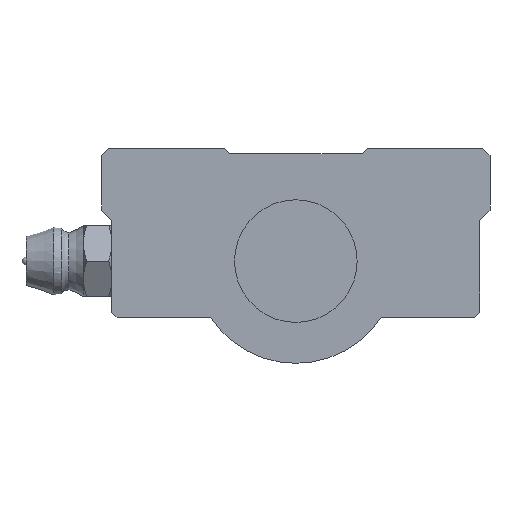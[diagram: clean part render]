
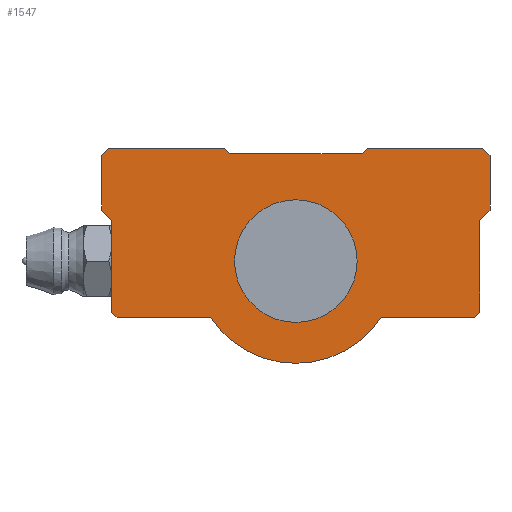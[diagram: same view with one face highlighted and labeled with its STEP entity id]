
A CAD part, left-side view. The second image highlights one B-rep face of the part: STEP entity #1547.
In plain terms, the highlighted planar face has unit normal (-1, 0, 0).
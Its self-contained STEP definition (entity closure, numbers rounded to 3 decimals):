
#780=CARTESIAN_POINT('',(135.0,18.,-5.));
#781=VERTEX_POINT('',#780);
#788=CARTESIAN_POINT('',(135.0,18.0,4.));
#789=VERTEX_POINT('',#788);
#790=CARTESIAN_POINT('',(135.0,18.,-5.));
#791=DIRECTION('',(0.0,0.0,1.0));
#792=VECTOR('',#791,9.);
#793=LINE('',#790,#792);
#794=EDGE_CURVE('',#781,#789,#793,.T.);
#1173=CARTESIAN_POINT('',(135.0,17.5,-5.5));
#1174=VERTEX_POINT('',#1173);
#1181=CARTESIAN_POINT('',(135.0,17.5,-5.5));
#1182=DIRECTION('',(0.0,0.707,0.707));
#1183=VECTOR('',#1182,0.707);
#1184=LINE('',#1181,#1183);
#1185=EDGE_CURVE('',#1174,#781,#1184,.T.);
#1205=CARTESIAN_POINT('',(135.0,8.352,-5.5));
#1206=VERTEX_POINT('',#1205);
#1213=CARTESIAN_POINT('',(135.0,8.352,-5.5));
#1214=DIRECTION('',(0.0,1.0,0.0));
#1215=VECTOR('',#1214,9.148);
#1216=LINE('',#1213,#1215);
#1217=EDGE_CURVE('',#1206,#1174,#1216,.T.);
#1391=CARTESIAN_POINT('',(135.0,-18.,-5.));
#1392=VERTEX_POINT('',#1391);
#1399=CARTESIAN_POINT('',(135.0,-17.5,-5.5));
#1400=VERTEX_POINT('',#1399);
#1401=CARTESIAN_POINT('',(135.0,-18.,-5.));
#1402=DIRECTION('',(0.0,0.707,-0.707));
#1403=VECTOR('',#1402,0.707);
#1404=LINE('',#1401,#1403);
#1405=EDGE_CURVE('',#1392,#1400,#1404,.T.);
#1416=CARTESIAN_POINT('',(135.0,-13.,10.75));
#1417=DIRECTION('',(1.0,0.0,0.0));
#1418=DIRECTION('',(0.0,0.0,-1.0));
#1419=AXIS2_PLACEMENT_3D('',#1416,#1417,#1418);
#1420=PLANE('',#1419);
#1421=ORIENTED_EDGE('',*,*,#1185,.F.);
#1422=ORIENTED_EDGE('',*,*,#1217,.F.);
#1423=CARTESIAN_POINT('',(135.0,-8.352,-5.5));
#1424=VERTEX_POINT('',#1423);
#1425=CARTESIAN_POINT('',(135.0,0.0,0.0));
#1426=DIRECTION('',(1.,0.0,0.0));
#1427=DIRECTION('',(0.0,-0.835,-0.55));
#1428=AXIS2_PLACEMENT_3D('',#1425,#1426,#1427);
#1429=CIRCLE('',#1428,10.0);
#1430=EDGE_CURVE('',#1424,#1206,#1429,.T.);
#1431=ORIENTED_EDGE('',*,*,#1430,.F.);
#1432=CARTESIAN_POINT('',(135.0,-17.5,-5.5));
#1433=DIRECTION('',(0.0,1.0,0.0));
#1434=VECTOR('',#1433,9.148);
#1435=LINE('',#1432,#1434);
#1436=EDGE_CURVE('',#1400,#1424,#1435,.T.);
#1437=ORIENTED_EDGE('',*,*,#1436,.F.);
#1438=ORIENTED_EDGE('',*,*,#1405,.F.);
#1439=CARTESIAN_POINT('',(135.0,-18.0,4.));
#1440=VERTEX_POINT('',#1439);
#1441=CARTESIAN_POINT('',(135.0,-18.0,4.));
#1442=DIRECTION('',(0.0,0.0,-1.0));
#1443=VECTOR('',#1442,9.);
#1444=LINE('',#1441,#1443);
#1445=EDGE_CURVE('',#1440,#1392,#1444,.T.);
#1446=ORIENTED_EDGE('',*,*,#1445,.F.);
#1447=CARTESIAN_POINT('',(135.0,-19.0,5.));
#1448=VERTEX_POINT('',#1447);
#1449=CARTESIAN_POINT('',(135.0,-19.0,5.));
#1450=DIRECTION('',(0.0,0.707,-0.707));
#1451=VECTOR('',#1450,1.414);
#1452=LINE('',#1449,#1451);
#1453=EDGE_CURVE('',#1448,#1440,#1452,.T.);
#1454=ORIENTED_EDGE('',*,*,#1453,.F.);
#1455=CARTESIAN_POINT('',(135.0,-19.0,10.3));
#1456=VERTEX_POINT('',#1455);
#1457=CARTESIAN_POINT('',(135.0,-19.0,10.3));
#1458=DIRECTION('',(0.0,0.0,-1.0));
#1459=VECTOR('',#1458,5.3);
#1460=LINE('',#1457,#1459);
#1461=EDGE_CURVE('',#1456,#1448,#1460,.T.);
#1462=ORIENTED_EDGE('',*,*,#1461,.F.);
#1463=CARTESIAN_POINT('',(135.0,-18.3,11.));
#1464=VERTEX_POINT('',#1463);
#1465=CARTESIAN_POINT('',(135.0,-18.3,11.));
#1466=DIRECTION('',(0.0,-0.707,-0.707));
#1467=VECTOR('',#1466,0.99);
#1468=LINE('',#1465,#1467);
#1469=EDGE_CURVE('',#1464,#1456,#1468,.T.);
#1470=ORIENTED_EDGE('',*,*,#1469,.F.);
#1471=CARTESIAN_POINT('',(135.0,-7.,11.));
#1472=VERTEX_POINT('',#1471);
#1473=CARTESIAN_POINT('',(135.0,-7.,11.));
#1474=DIRECTION('',(0.0,-1.0,0.0));
#1475=VECTOR('',#1474,11.3);
#1476=LINE('',#1473,#1475);
#1477=EDGE_CURVE('',#1472,#1464,#1476,.T.);
#1478=ORIENTED_EDGE('',*,*,#1477,.F.);
#1479=CARTESIAN_POINT('',(135.0,-6.5,10.5));
#1480=VERTEX_POINT('',#1479);
#1481=CARTESIAN_POINT('',(135.0,-6.5,10.5));
#1482=DIRECTION('',(0.0,-0.707,0.707));
#1483=VECTOR('',#1482,0.707);
#1484=LINE('',#1481,#1483);
#1485=EDGE_CURVE('',#1480,#1472,#1484,.T.);
#1486=ORIENTED_EDGE('',*,*,#1485,.F.);
#1487=CARTESIAN_POINT('',(135.0,6.5,10.5));
#1488=VERTEX_POINT('',#1487);
#1489=CARTESIAN_POINT('',(135.0,6.5,10.5));
#1490=DIRECTION('',(0.0,-1.0,0.0));
#1491=VECTOR('',#1490,13.);
#1492=LINE('',#1489,#1491);
#1493=EDGE_CURVE('',#1488,#1480,#1492,.T.);
#1494=ORIENTED_EDGE('',*,*,#1493,.F.);
#1495=CARTESIAN_POINT('',(135.0,7.,11.));
#1496=VERTEX_POINT('',#1495);
#1497=CARTESIAN_POINT('',(135.0,7.,11.));
#1498=DIRECTION('',(0.0,-0.707,-0.707));
#1499=VECTOR('',#1498,0.707);
#1500=LINE('',#1497,#1499);
#1501=EDGE_CURVE('',#1496,#1488,#1500,.T.);
#1502=ORIENTED_EDGE('',*,*,#1501,.F.);
#1503=CARTESIAN_POINT('',(135.0,18.3,11.));
#1504=VERTEX_POINT('',#1503);
#1505=CARTESIAN_POINT('',(135.0,18.3,11.));
#1506=DIRECTION('',(0.0,-1.0,0.0));
#1507=VECTOR('',#1506,11.3);
#1508=LINE('',#1505,#1507);
#1509=EDGE_CURVE('',#1504,#1496,#1508,.T.);
#1510=ORIENTED_EDGE('',*,*,#1509,.F.);
#1511=CARTESIAN_POINT('',(135.0,19.0,10.3));
#1512=VERTEX_POINT('',#1511);
#1513=CARTESIAN_POINT('',(135.0,19.0,10.3));
#1514=DIRECTION('',(0.0,-0.707,0.707));
#1515=VECTOR('',#1514,0.99);
#1516=LINE('',#1513,#1515);
#1517=EDGE_CURVE('',#1512,#1504,#1516,.T.);
#1518=ORIENTED_EDGE('',*,*,#1517,.F.);
#1519=CARTESIAN_POINT('',(135.0,19.0,5.));
#1520=VERTEX_POINT('',#1519);
#1521=CARTESIAN_POINT('',(135.0,19.0,5.));
#1522=DIRECTION('',(0.0,0.0,1.0));
#1523=VECTOR('',#1522,5.3);
#1524=LINE('',#1521,#1523);
#1525=EDGE_CURVE('',#1520,#1512,#1524,.T.);
#1526=ORIENTED_EDGE('',*,*,#1525,.F.);
#1527=CARTESIAN_POINT('',(135.0,18.0,4.));
#1528=DIRECTION('',(0.0,0.707,0.707));
#1529=VECTOR('',#1528,1.414);
#1530=LINE('',#1527,#1529);
#1531=EDGE_CURVE('',#789,#1520,#1530,.T.);
#1532=ORIENTED_EDGE('',*,*,#1531,.F.);
#1533=ORIENTED_EDGE('',*,*,#794,.F.);
#1534=EDGE_LOOP('',(#1421,#1422,#1431,#1437,#1438,#1446,#1454,#1462,#1470,#1478,#1486,#1494,#1502,#1510,#1518,#1526,#1532,#1533));
#1535=FACE_OUTER_BOUND('',#1534,.T.);
#1536=CARTESIAN_POINT('',(135.0,6.,0.));
#1537=VERTEX_POINT('',#1536);
#1538=CARTESIAN_POINT('',(135.0,0.0,0.0));
#1539=DIRECTION('',(1.0,0.0,0.0));
#1540=DIRECTION('',(0.0,-1.0,0.0));
#1541=AXIS2_PLACEMENT_3D('',#1538,#1539,#1540);
#1542=CIRCLE('',#1541,6.);
#1543=EDGE_CURVE('',#1537,#1537,#1542,.T.);
#1544=ORIENTED_EDGE('',*,*,#1543,.T.);
#1545=EDGE_LOOP('',(#1544));
#1546=FACE_BOUND('',#1545,.T.);
#1547=ADVANCED_FACE('',(#1535,#1546),#1420,.F.);
